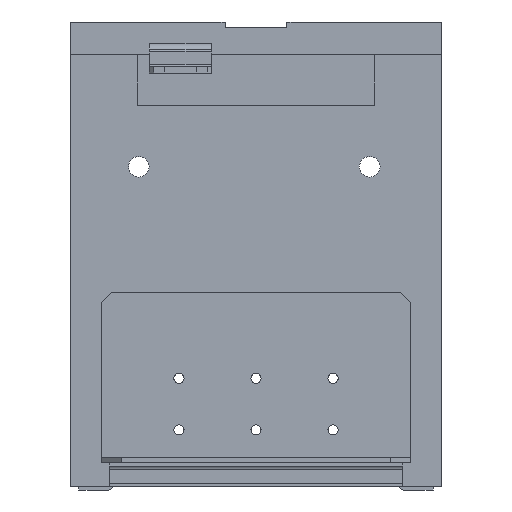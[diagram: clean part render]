
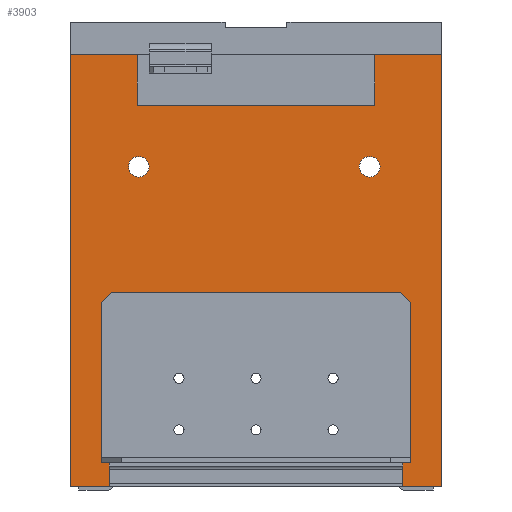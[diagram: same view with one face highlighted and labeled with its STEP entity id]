
A CAD part, left-side view. The second image highlights one B-rep face of the part: STEP entity #3903.
In plain terms, the highlighted planar face has unit normal (-1, 0, 0).
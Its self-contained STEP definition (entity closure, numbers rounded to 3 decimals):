
#1263=AXIS2_PLACEMENT_3D('Circle Axis2P3D',#1261,#1262,$) ;
#1289=AXIS2_PLACEMENT_3D('Circle Axis2P3D',#1287,#1288,$) ;
#1320=AXIS2_PLACEMENT_3D('Circle Axis2P3D',#1318,#1319,$) ;
#1346=AXIS2_PLACEMENT_3D('Circle Axis2P3D',#1344,#1345,$) ;
#3849=AXIS2_PLACEMENT_3D('Plane Axis2P3D',#3846,#3847,#3848) ;
#341=CARTESIAN_POINT('Vertex',(-445.1,-90.,209.18)) ;
#344=CARTESIAN_POINT('Line Origine',(-445.1,-90.,104.59)) ;
#348=CARTESIAN_POINT('Vertex',(-445.1,-90.,0.)) ;
#650=CARTESIAN_POINT('Vertex',(-445.1,71.,0.)) ;
#653=CARTESIAN_POINT('Line Origine',(-445.1,80.5,0.)) ;
#657=CARTESIAN_POINT('Vertex',(-445.1,90.,0.)) ;
#763=CARTESIAN_POINT('Vertex',(-445.1,71.,1.5)) ;
#766=CARTESIAN_POINT('Line Origine',(-445.1,71.,0.75)) ;
#907=CARTESIAN_POINT('Line Origine',(-445.1,0.,1.5)) ;
#911=CARTESIAN_POINT('Vertex',(-445.1,-71.,1.5)) ;
#949=CARTESIAN_POINT('Vertex',(-445.1,-71.,0.)) ;
#952=CARTESIAN_POINT('Line Origine',(-445.1,-71.,0.75)) ;
#982=CARTESIAN_POINT('Vertex',(-445.1,57.4,209.18)) ;
#985=CARTESIAN_POINT('Line Origine',(-445.1,57.4,196.93)) ;
#989=CARTESIAN_POINT('Vertex',(-445.1,57.4,184.68)) ;
#1040=CARTESIAN_POINT('Line Origine',(-445.1,0.,184.68)) ;
#1044=CARTESIAN_POINT('Vertex',(-445.1,-57.4,184.68)) ;
#1258=CARTESIAN_POINT('Vertex',(-445.1,56.759,159.9)) ;
#1261=CARTESIAN_POINT('Axis2P3D Location',(-445.1,56.759,154.9)) ;
#1265=CARTESIAN_POINT('Vertex',(-445.1,56.759,149.9)) ;
#1287=CARTESIAN_POINT('Axis2P3D Location',(-445.1,56.759,154.9)) ;
#1315=CARTESIAN_POINT('Vertex',(-445.1,-55.059,159.9)) ;
#1318=CARTESIAN_POINT('Axis2P3D Location',(-445.1,-55.059,154.9)) ;
#1322=CARTESIAN_POINT('Vertex',(-445.1,-55.059,149.9)) ;
#1344=CARTESIAN_POINT('Axis2P3D Location',(-445.1,-55.059,154.9)) ;
#1722=CARTESIAN_POINT('Vertex',(-445.1,75.,11.6)) ;
#1725=CARTESIAN_POINT('Line Origine',(-445.1,0.,11.6)) ;
#1729=CARTESIAN_POINT('Vertex',(-445.1,-75.,11.6)) ;
#1898=CARTESIAN_POINT('Vertex',(-445.1,-75.,89.1)) ;
#1922=CARTESIAN_POINT('Line Origine',(-445.1,-75.,50.35)) ;
#3050=CARTESIAN_POINT('Vertex',(-445.1,-70.,94.1)) ;
#3053=CARTESIAN_POINT('Line Origine',(-445.1,0.,94.1)) ;
#3057=CARTESIAN_POINT('Vertex',(-445.1,70.,94.1)) ;
#3077=CARTESIAN_POINT('Line Origine',(-445.1,-72.5,91.6)) ;
#3089=CARTESIAN_POINT('Line Origine',(-445.1,75.,50.35)) ;
#3093=CARTESIAN_POINT('Vertex',(-445.1,75.,89.1)) ;
#3115=CARTESIAN_POINT('Line Origine',(-445.1,72.5,91.6)) ;
#3597=CARTESIAN_POINT('Line Origine',(-445.1,-57.4,196.93)) ;
#3601=CARTESIAN_POINT('Vertex',(-445.1,-57.4,209.18)) ;
#3846=CARTESIAN_POINT('Axis2P3D Location',(-445.1,0.,209.18)) ;
#3851=CARTESIAN_POINT('Line Origine',(-445.1,73.7,209.18)) ;
#3855=CARTESIAN_POINT('Vertex',(-445.1,90.,209.18)) ;
#3858=CARTESIAN_POINT('Line Origine',(-445.1,90.,104.59)) ;
#3863=CARTESIAN_POINT('Line Origine',(-445.1,-80.5,0.)) ;
#3868=CARTESIAN_POINT('Line Origine',(-445.1,-73.7,209.18)) ;
#345=DIRECTION('Vector Direction',(0.,0.,-1.)) ;
#654=DIRECTION('Vector Direction',(0.,1.,0.)) ;
#767=DIRECTION('Vector Direction',(0.,0.,1.)) ;
#908=DIRECTION('Vector Direction',(0.,1.,0.)) ;
#953=DIRECTION('Vector Direction',(0.,0.,1.)) ;
#986=DIRECTION('Vector Direction',(0.,0.,-1.)) ;
#1041=DIRECTION('Vector Direction',(0.,1.,0.)) ;
#1262=DIRECTION('Axis2P3D Direction',(-1.,0.,0.)) ;
#1288=DIRECTION('Axis2P3D Direction',(-1.,0.,0.)) ;
#1319=DIRECTION('Axis2P3D Direction',(-1.,0.,0.)) ;
#1345=DIRECTION('Axis2P3D Direction',(-1.,0.,0.)) ;
#1726=DIRECTION('Vector Direction',(0.,1.,0.)) ;
#1923=DIRECTION('Vector Direction',(0.,0.,-1.)) ;
#3054=DIRECTION('Vector Direction',(0.,1.,0.)) ;
#3078=DIRECTION('Vector Direction',(0.,-0.707,-0.707)) ;
#3090=DIRECTION('Vector Direction',(0.,0.,-1.)) ;
#3116=DIRECTION('Vector Direction',(0.,0.707,-0.707)) ;
#3598=DIRECTION('Vector Direction',(0.,0.,1.)) ;
#3847=DIRECTION('Axis2P3D Direction',(1.,-0.,0.)) ;
#3848=DIRECTION('Axis2P3D XDirection',(0.,0.,-1.)) ;
#3852=DIRECTION('Vector Direction',(0.,1.,0.)) ;
#3859=DIRECTION('Vector Direction',(0.,0.,-1.)) ;
#3864=DIRECTION('Vector Direction',(0.,1.,0.)) ;
#3869=DIRECTION('Vector Direction',(0.,1.,0.)) ;
#346=VECTOR('Line Direction',#345,1.) ;
#655=VECTOR('Line Direction',#654,1.) ;
#768=VECTOR('Line Direction',#767,1.) ;
#909=VECTOR('Line Direction',#908,1.) ;
#954=VECTOR('Line Direction',#953,1.) ;
#987=VECTOR('Line Direction',#986,1.) ;
#1042=VECTOR('Line Direction',#1041,1.) ;
#1727=VECTOR('Line Direction',#1726,1.) ;
#1924=VECTOR('Line Direction',#1923,1.) ;
#3055=VECTOR('Line Direction',#3054,1.) ;
#3079=VECTOR('Line Direction',#3078,1.) ;
#3091=VECTOR('Line Direction',#3090,1.) ;
#3117=VECTOR('Line Direction',#3116,1.) ;
#3599=VECTOR('Line Direction',#3598,1.) ;
#3853=VECTOR('Line Direction',#3852,1.) ;
#3860=VECTOR('Line Direction',#3859,1.) ;
#3865=VECTOR('Line Direction',#3864,1.) ;
#3870=VECTOR('Line Direction',#3869,1.) ;
#3874=ORIENTED_EDGE('',*,*,#3603,.T.) ;
#3875=ORIENTED_EDGE('',*,*,#1046,.T.) ;
#3876=ORIENTED_EDGE('',*,*,#991,.T.) ;
#3877=ORIENTED_EDGE('',*,*,#3857,.T.) ;
#3878=ORIENTED_EDGE('',*,*,#3862,.F.) ;
#3879=ORIENTED_EDGE('',*,*,#659,.F.) ;
#3880=ORIENTED_EDGE('',*,*,#770,.T.) ;
#3881=ORIENTED_EDGE('',*,*,#913,.F.) ;
#3882=ORIENTED_EDGE('',*,*,#956,.F.) ;
#3883=ORIENTED_EDGE('',*,*,#3867,.F.) ;
#3884=ORIENTED_EDGE('',*,*,#350,.T.) ;
#3885=ORIENTED_EDGE('',*,*,#3872,.T.) ;
#3888=ORIENTED_EDGE('',*,*,#3059,.F.) ;
#3889=ORIENTED_EDGE('',*,*,#3081,.F.) ;
#3890=ORIENTED_EDGE('',*,*,#1926,.T.) ;
#3891=ORIENTED_EDGE('',*,*,#1731,.T.) ;
#3892=ORIENTED_EDGE('',*,*,#3095,.F.) ;
#3893=ORIENTED_EDGE('',*,*,#3119,.F.) ;
#3896=ORIENTED_EDGE('',*,*,#1291,.T.) ;
#3897=ORIENTED_EDGE('',*,*,#1267,.T.) ;
#3900=ORIENTED_EDGE('',*,*,#1348,.T.) ;
#3901=ORIENTED_EDGE('',*,*,#1324,.T.) ;
#3894=FACE_BOUND('',#3887,.T.) ;
#3898=FACE_BOUND('',#3895,.T.) ;
#3902=FACE_BOUND('',#3899,.T.) ;
#3903=ADVANCED_FACE('\X2\6A217EC4\X0\',(#3886,#3894,#3898,#3902),#3850,.F.) ;
#1264=CIRCLE('generated circle',#1263,5.) ;
#1290=CIRCLE('generated circle',#1289,5.) ;
#1321=CIRCLE('generated circle',#1320,5.) ;
#1347=CIRCLE('generated circle',#1346,5.) ;
#350=EDGE_CURVE('',#349,#342,#347,.F.) ;
#659=EDGE_CURVE('',#651,#658,#656,.T.) ;
#770=EDGE_CURVE('',#651,#764,#769,.T.) ;
#913=EDGE_CURVE('',#912,#764,#910,.T.) ;
#956=EDGE_CURVE('',#950,#912,#955,.T.) ;
#991=EDGE_CURVE('',#990,#983,#988,.F.) ;
#1046=EDGE_CURVE('',#1045,#990,#1043,.T.) ;
#1267=EDGE_CURVE('',#1266,#1259,#1264,.F.) ;
#1291=EDGE_CURVE('',#1259,#1266,#1290,.F.) ;
#1324=EDGE_CURVE('',#1323,#1316,#1321,.F.) ;
#1348=EDGE_CURVE('',#1316,#1323,#1347,.F.) ;
#1731=EDGE_CURVE('',#1730,#1723,#1728,.T.) ;
#1926=EDGE_CURVE('',#1899,#1730,#1925,.T.) ;
#3059=EDGE_CURVE('',#3051,#3058,#3056,.T.) ;
#3081=EDGE_CURVE('',#1899,#3051,#3080,.F.) ;
#3095=EDGE_CURVE('',#3094,#1723,#3092,.T.) ;
#3119=EDGE_CURVE('',#3058,#3094,#3118,.T.) ;
#3603=EDGE_CURVE('',#3602,#1045,#3600,.F.) ;
#3857=EDGE_CURVE('',#983,#3856,#3854,.T.) ;
#3862=EDGE_CURVE('',#658,#3856,#3861,.F.) ;
#3867=EDGE_CURVE('',#349,#950,#3866,.T.) ;
#3872=EDGE_CURVE('',#342,#3602,#3871,.T.) ;
#3873=EDGE_LOOP('',(#3874,#3875,#3876,#3877,#3878,#3879,#3880,#3881,#3882,#3883,#3884,#3885)) ;
#3887=EDGE_LOOP('',(#3888,#3889,#3890,#3891,#3892,#3893)) ;
#3895=EDGE_LOOP('',(#3896,#3897)) ;
#3899=EDGE_LOOP('',(#3900,#3901)) ;
#3886=FACE_OUTER_BOUND('',#3873,.T.) ;
#347=LINE('Line',#344,#346) ;
#656=LINE('Line',#653,#655) ;
#769=LINE('Line',#766,#768) ;
#910=LINE('Line',#907,#909) ;
#955=LINE('Line',#952,#954) ;
#988=LINE('Line',#985,#987) ;
#1043=LINE('Line',#1040,#1042) ;
#1728=LINE('Line',#1725,#1727) ;
#1925=LINE('Line',#1922,#1924) ;
#3056=LINE('Line',#3053,#3055) ;
#3080=LINE('Line',#3077,#3079) ;
#3092=LINE('Line',#3089,#3091) ;
#3118=LINE('Line',#3115,#3117) ;
#3600=LINE('Line',#3597,#3599) ;
#3854=LINE('Line',#3851,#3853) ;
#3861=LINE('Line',#3858,#3860) ;
#3866=LINE('Line',#3863,#3865) ;
#3871=LINE('Line',#3868,#3870) ;
#3850=PLANE('',#3849) ;
#342=VERTEX_POINT('',#341) ;
#349=VERTEX_POINT('',#348) ;
#651=VERTEX_POINT('',#650) ;
#658=VERTEX_POINT('',#657) ;
#764=VERTEX_POINT('',#763) ;
#912=VERTEX_POINT('',#911) ;
#950=VERTEX_POINT('',#949) ;
#983=VERTEX_POINT('',#982) ;
#990=VERTEX_POINT('',#989) ;
#1045=VERTEX_POINT('',#1044) ;
#1259=VERTEX_POINT('',#1258) ;
#1266=VERTEX_POINT('',#1265) ;
#1316=VERTEX_POINT('',#1315) ;
#1323=VERTEX_POINT('',#1322) ;
#1723=VERTEX_POINT('',#1722) ;
#1730=VERTEX_POINT('',#1729) ;
#1899=VERTEX_POINT('',#1898) ;
#3051=VERTEX_POINT('',#3050) ;
#3058=VERTEX_POINT('',#3057) ;
#3094=VERTEX_POINT('',#3093) ;
#3602=VERTEX_POINT('',#3601) ;
#3856=VERTEX_POINT('',#3855) ;
